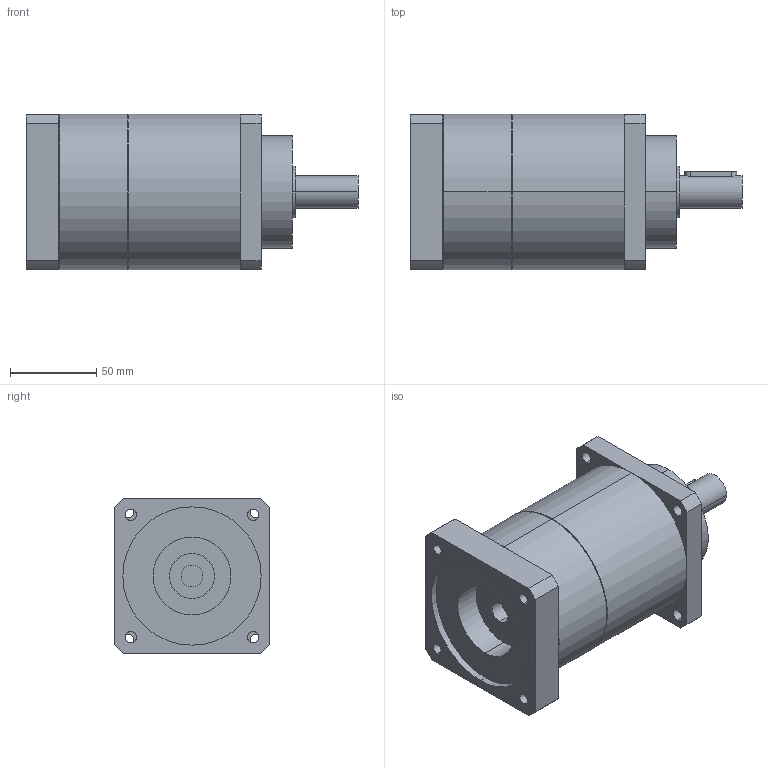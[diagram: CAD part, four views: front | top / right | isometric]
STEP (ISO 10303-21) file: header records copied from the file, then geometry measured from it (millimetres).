
FILE_DESCRIPTION(('CoCreate Modeling STEP Export'),'2;1');
FILE_NAME('GPT90_ig-9-12-16-20-25-28-35-40-50-70-100_19_B5T_12.7_P34.stp','2015-02-04T11:27:56',(''),(''),'CoCreate Modeling STEP processor for AP214 (Solid Model)','CoCreate Modeling 16.00C 25-Feb-2009 (C) Parametric Technology GmbH','');
FILE_SCHEMA(('AUTOMOTIVE_DESIGN { 1 0 10303 214 1 1 1 1 }'));
Length unit declared in the file: millimetre
Products named in the file (2): GPT90_ig-9-12-16-20-25-28-35-40-50-70-100_19_B5T_12.7_P34
Assembly tree (1 placements, depth 2):
  GPT90_ig-9-12-16-20-25-28-35-40-50-70-100_19_B5T_12.7_P34
    GPT90_ig-9-12-16-20-25-28-35-40-50-70-100_19_B5T_12.7_P34
Bounding box: 192 x 90 x 90 mm (x, y, z)
Volume: 937515.5 mm3; surface area: 73627.1 mm2
Topology: 1 solids, 1 shells, 77 faces, 206 edges, 141 vertices
Faces by surface type: cylinder 46, plane 27, cone 4
Entity records: 2596 total; most frequent: CARTESIAN_POINT 742, ORIENTED_EDGE 412, DIRECTION 324, EDGE_CURVE 206, VERTEX_POINT 141, AXIS2_PLACEMENT_3D 120, EDGE_LOOP 103, VECTOR 84
